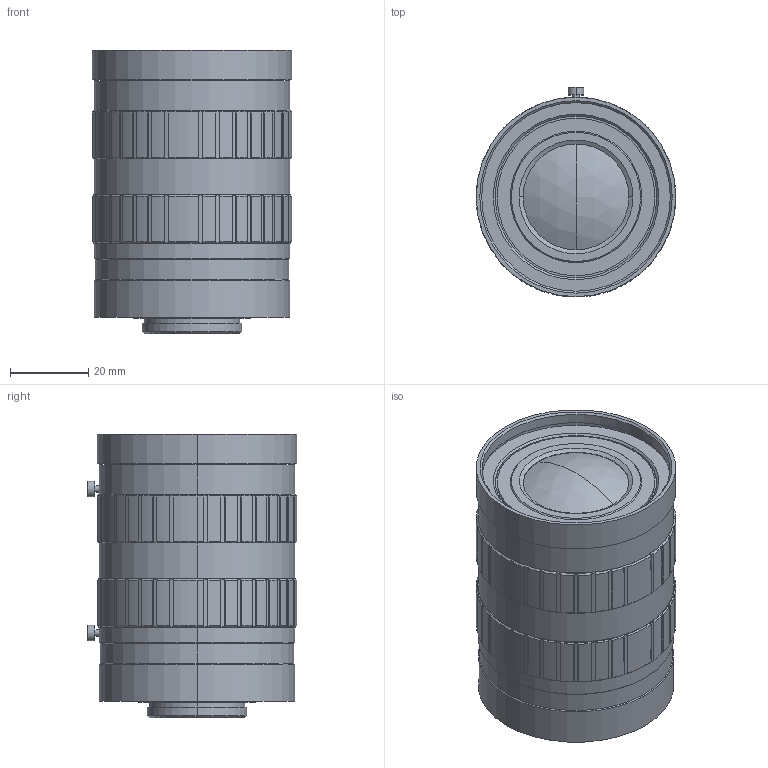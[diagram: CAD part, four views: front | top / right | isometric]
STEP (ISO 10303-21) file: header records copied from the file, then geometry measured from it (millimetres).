
FILE_DESCRIPTION (( 'STEP AP214' ), '1' );
FILE_NAME ('HF12.5SA-1_3D_Modeling.STEP', '2016-06-07T04:17:00', ( '富士フイルム株式会社' ), ( '富士フイルム株式会社' ), 'SwSTEP 2.0', 'SolidWorks 2014', '' );
FILE_SCHEMA (( 'AUTOMOTIVE_DESIGN' ));
Length unit declared in the file: millimetre
Products named in the file (1): HF12.5SA-1_3D_Modeling
Bounding box: 51 x 53.6 x 72.52 mm (x, y, z)
Volume: 129840 mm3; surface area: 18040.9 mm2
Topology: 1 solids, 1 shells, 362 faces, 984 edges, 646 vertices
Faces by surface type: cylinder 174, plane 150, cone 34, sphere 4
Entity records: 11950 total; most frequent: CARTESIAN_POINT 2913, ORIENTED_EDGE 1968, DIRECTION 1838, EDGE_CURVE 984, AXIS2_PLACEMENT_3D 751, VERTEX_POINT 646, CIRCLE 388, EDGE_LOOP 384
